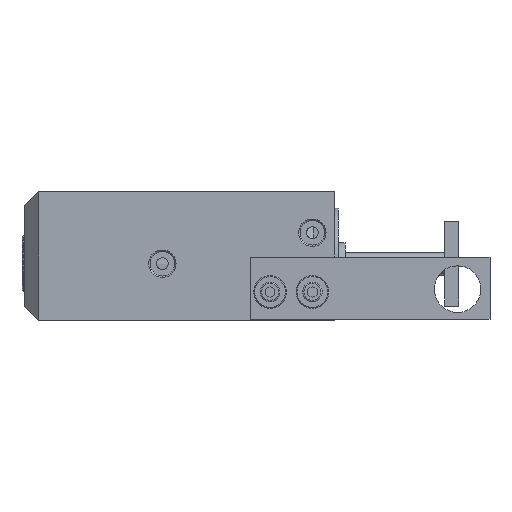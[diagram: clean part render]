
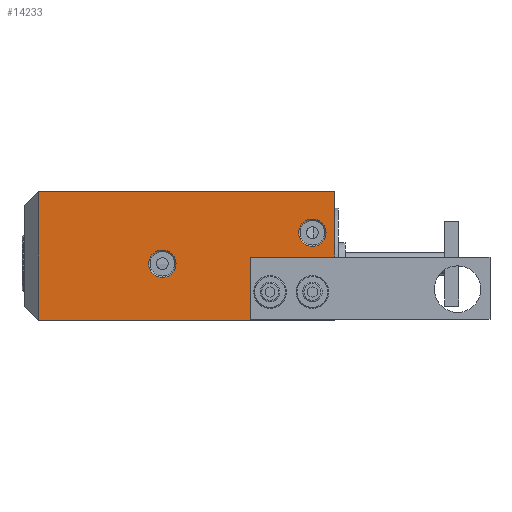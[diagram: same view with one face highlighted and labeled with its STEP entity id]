
A CAD part, left-side view. The second image highlights one B-rep face of the part: STEP entity #14233.
In plain terms, the highlighted planar face has unit normal (-1, 0, 0).
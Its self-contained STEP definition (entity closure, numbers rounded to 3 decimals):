
#218 = VERTEX_POINT ( 'NONE', #6674 ) ;
#384 = AXIS2_PLACEMENT_3D ( 'NONE', #23008, #5559, #25905 ) ;
#560 = EDGE_CURVE ( 'NONE', #3073, #24330, #10596, .T. ) ;
#712 = DIRECTION ( 'NONE',  ( 0., 0., 1. ) ) ;
#1332 = FACE_BOUND ( 'NONE', #24751, .T. ) ;
#1492 = CARTESIAN_POINT ( 'NONE',  ( -28., 21., 45.5 ) ) ;
#1550 = CARTESIAN_POINT ( 'NONE',  ( -28., -61., 12. ) ) ;
#2615 = DIRECTION ( 'NONE',  ( 0., 0., 1. ) ) ;
#2742 = CARTESIAN_POINT ( 'NONE',  ( -28., -84., 0. ) ) ;
#3073 = VERTEX_POINT ( 'NONE', #14870 ) ;
#3975 = CIRCLE ( 'NONE', #19672, 2. ) ;
#4173 = EDGE_LOOP ( 'NONE', ( #15061, #31198, #10129, #7037 ) ) ;
#4769 = EDGE_CURVE ( 'NONE', #24325, #33685, #11867, .T. ) ;
#4869 = AXIS2_PLACEMENT_3D ( 'NONE', #15290, #17132, #37483 ) ;
#5304 = CARTESIAN_POINT ( 'NONE',  ( -28., -84., 0. ) ) ;
#5355 = VERTEX_POINT ( 'NONE', #15437 ) ;
#5501 = ORIENTED_EDGE ( 'NONE', *, *, #4769, .T. ) ;
#5559 = DIRECTION ( 'NONE',  ( -1., 0., 0. ) ) ;
#6254 = LINE ( 'NONE', #18580, #28566 ) ;
#6323 = CARTESIAN_POINT ( 'NONE',  ( -28., -84., 45.5 ) ) ;
#6570 = EDGE_CURVE ( 'NONE', #29233, #218, #37248, .T. ) ;
#6674 = CARTESIAN_POINT ( 'NONE',  ( -28., -22.8, 24.85 ) ) ;
#6682 = DIRECTION ( 'NONE',  ( 0., -1., 0. ) ) ;
#7037 = ORIENTED_EDGE ( 'NONE', *, *, #15779, .T. ) ;
#7098 = CARTESIAN_POINT ( 'NONE',  ( -28., -76., 35.85 ) ) ;
#7278 = EDGE_CURVE ( 'NONE', #24424, #36683, #6254, .T. ) ;
#8140 = FACE_OUTER_BOUND ( 'NONE', #4173, .T. ) ;
#8216 = DIRECTION ( 'NONE',  ( 0., 0., 1. ) ) ;
#8564 = CARTESIAN_POINT ( 'NONE',  ( -28., -76., 31. ) ) ;
#8643 = DIRECTION ( 'NONE',  ( 1., 0., 0. ) ) ;
#8964 = CARTESIAN_POINT ( 'NONE',  ( -28., -22.8, 20. ) ) ;
#9276 = CARTESIAN_POINT ( 'NONE',  ( -28., -76., 12. ) ) ;
#9984 = EDGE_CURVE ( 'NONE', #11219, #21552, #35727, .T. ) ;
#10026 = EDGE_CURVE ( 'NONE', #33685, #24325, #20296, .T. ) ;
#10129 = ORIENTED_EDGE ( 'NONE', *, *, #20117, .T. ) ;
#10292 = CARTESIAN_POINT ( 'NONE',  ( -28., -84., 0. ) ) ;
#10318 = DIRECTION ( 'NONE',  ( 0., 0., 1. ) ) ;
#10596 = CIRCLE ( 'NONE', #34453, 2. ) ;
#10730 = AXIS2_PLACEMENT_3D ( 'NONE', #33180, #34287, #10318 ) ;
#11040 = VERTEX_POINT ( 'NONE', #2742 ) ;
#11202 = ORIENTED_EDGE ( 'NONE', *, *, #6570, .T. ) ;
#11212 = CIRCLE ( 'NONE', #384, 2. ) ;
#11219 = VERTEX_POINT ( 'NONE', #22956 ) ;
#11256 = EDGE_LOOP ( 'NONE', ( #19033, #21388 ) ) ;
#11405 = EDGE_CURVE ( 'NONE', #218, #29233, #31511, .T. ) ;
#11485 = DIRECTION ( 'NONE',  ( 0., 0., 1. ) ) ;
#11533 = DIRECTION ( 'NONE',  ( 0., 0., -1. ) ) ;
#11867 = CIRCLE ( 'NONE', #25276, 4.85 ) ;
#11949 = DIRECTION ( 'NONE',  ( -1., 0., 0. ) ) ;
#12199 = CARTESIAN_POINT ( 'NONE',  ( -28., -84., 0. ) ) ;
#12871 = DIRECTION ( 'NONE',  ( 0., 0., 1. ) ) ;
#13007 = DIRECTION ( 'NONE',  ( -1., 0., 0. ) ) ;
#13129 = CARTESIAN_POINT ( 'NONE',  ( -28., -76., 10. ) ) ;
#14233 = ADVANCED_FACE ( 'NONE', ( #1332, #31370, #23641, #15916, #8140 ), #25417, .T. ) ;
#14462 = EDGE_LOOP ( 'NONE', ( #21447, #24348 ) ) ;
#14870 = CARTESIAN_POINT ( 'NONE',  ( -28., -76., 8. ) ) ;
#15061 = ORIENTED_EDGE ( 'NONE', *, *, #7278, .F. ) ;
#15150 = LINE ( 'NONE', #31879, #30637 ) ;
#15290 = CARTESIAN_POINT ( 'NONE',  ( -28., -61., 10. ) ) ;
#15437 = CARTESIAN_POINT ( 'NONE',  ( -28., 21., 0. ) ) ;
#15779 = EDGE_CURVE ( 'NONE', #11040, #36683, #28554, .T. ) ;
#15916 = FACE_BOUND ( 'NONE', #14462, .T. ) ;
#15968 = AXIS2_PLACEMENT_3D ( 'NONE', #5304, #25646, #8216 ) ;
#17132 = DIRECTION ( 'NONE',  ( -1., 0., 0. ) ) ;
#17943 = ORIENTED_EDGE ( 'NONE', *, *, #10026, .T. ) ;
#18580 = CARTESIAN_POINT ( 'NONE',  ( -28., -84., 45.5 ) ) ;
#18839 = VECTOR ( 'NONE', #33545, 1000. ) ;
#18867 = ORIENTED_EDGE ( 'NONE', *, *, #11405, .T. ) ;
#19033 = ORIENTED_EDGE ( 'NONE', *, *, #9984, .F. ) ;
#19672 = AXIS2_PLACEMENT_3D ( 'NONE', #29376, #11949, #32269 ) ;
#19732 = LINE ( 'NONE', #10292, #18839 ) ;
#20117 = EDGE_CURVE ( 'NONE', #5355, #11040, #19732, .T. ) ;
#20296 = CIRCLE ( 'NONE', #10730, 4.85 ) ;
#20353 = EDGE_CURVE ( 'NONE', #24424, #5355, #15150, .T. ) ;
#20852 = VECTOR ( 'NONE', #712, 1000. ) ;
#21388 = ORIENTED_EDGE ( 'NONE', *, *, #31128, .F. ) ;
#21447 = ORIENTED_EDGE ( 'NONE', *, *, #560, .F. ) ;
#21552 = VERTEX_POINT ( 'NONE', #1550 ) ;
#22956 = CARTESIAN_POINT ( 'NONE',  ( -28., -61., 8. ) ) ;
#23008 = CARTESIAN_POINT ( 'NONE',  ( -28., -76., 10. ) ) ;
#23030 = DIRECTION ( 'NONE',  ( 0., 0., 1. ) ) ;
#23641 = FACE_BOUND ( 'NONE', #11256, .T. ) ;
#24325 = VERTEX_POINT ( 'NONE', #7098 ) ;
#24330 = VERTEX_POINT ( 'NONE', #9276 ) ;
#24348 = ORIENTED_EDGE ( 'NONE', *, *, #33296, .F. ) ;
#24424 = VERTEX_POINT ( 'NONE', #1492 ) ;
#24751 = EDGE_LOOP ( 'NONE', ( #5501, #17943 ) ) ;
#25276 = AXIS2_PLACEMENT_3D ( 'NONE', #8564, #28912, #11485 ) ;
#25417 = PLANE ( 'NONE',  #15968 ) ;
#25646 = DIRECTION ( 'NONE',  ( -1., 0., 0. ) ) ;
#25905 = DIRECTION ( 'NONE',  ( 0., 0., 1. ) ) ;
#28554 = LINE ( 'NONE', #12199, #20852 ) ;
#28566 = VECTOR ( 'NONE', #6682, 1000. ) ;
#28912 = DIRECTION ( 'NONE',  ( 1., 0., 0. ) ) ;
#29233 = VERTEX_POINT ( 'NONE', #33829 ) ;
#29291 = EDGE_LOOP ( 'NONE', ( #18867, #11202 ) ) ;
#29376 = CARTESIAN_POINT ( 'NONE',  ( -28., -61., 10. ) ) ;
#30195 = AXIS2_PLACEMENT_3D ( 'NONE', #8964, #8643, #23030 ) ;
#30637 = VECTOR ( 'NONE', #11533, 1000. ) ;
#31128 = EDGE_CURVE ( 'NONE', #21552, #11219, #3975, .T. ) ;
#31198 = ORIENTED_EDGE ( 'NONE', *, *, #20353, .T. ) ;
#31370 = FACE_BOUND ( 'NONE', #29291, .T. ) ;
#31511 = CIRCLE ( 'NONE', #36595, 4.85 ) ;
#31605 = CARTESIAN_POINT ( 'NONE',  ( -28., -76., 26.15 ) ) ;
#31879 = CARTESIAN_POINT ( 'NONE',  ( -28., 21., 0. ) ) ;
#32269 = DIRECTION ( 'NONE',  ( 0., 0., 1. ) ) ;
#33180 = CARTESIAN_POINT ( 'NONE',  ( -28., -76., 31. ) ) ;
#33296 = EDGE_CURVE ( 'NONE', #24330, #3073, #11212, .T. ) ;
#33545 = DIRECTION ( 'NONE',  ( 0., -1., 0. ) ) ;
#33685 = VERTEX_POINT ( 'NONE', #31605 ) ;
#33829 = CARTESIAN_POINT ( 'NONE',  ( -28., -22.8, 15.15 ) ) ;
#34287 = DIRECTION ( 'NONE',  ( 1., 0., 0. ) ) ;
#34453 = AXIS2_PLACEMENT_3D ( 'NONE', #13129, #13007, #12871 ) ;
#35727 = CIRCLE ( 'NONE', #4869, 2. ) ;
#35775 = CARTESIAN_POINT ( 'NONE',  ( -28., -22.8, 20. ) ) ;
#36595 = AXIS2_PLACEMENT_3D ( 'NONE', #35775, #36672, #2615 ) ;
#36672 = DIRECTION ( 'NONE',  ( 1., 0., 0. ) ) ;
#36683 = VERTEX_POINT ( 'NONE', #6323 ) ;
#37248 = CIRCLE ( 'NONE', #30195, 4.85 ) ;
#37483 = DIRECTION ( 'NONE',  ( 0., 0., 1. ) ) ;
